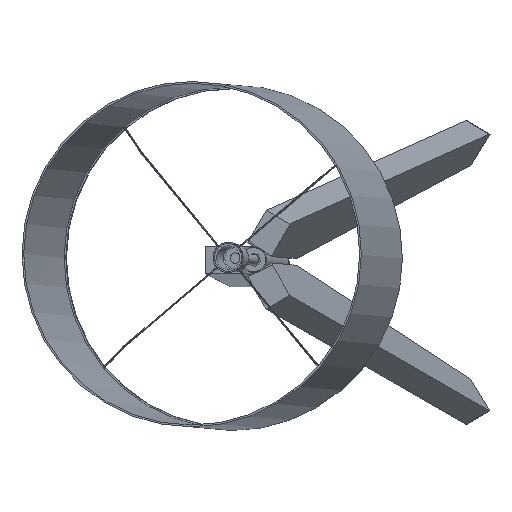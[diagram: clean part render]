
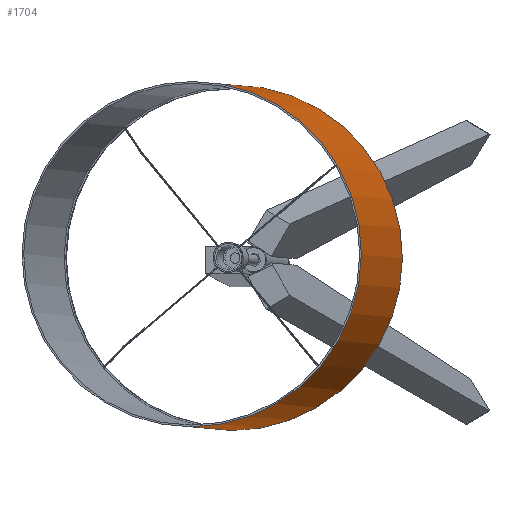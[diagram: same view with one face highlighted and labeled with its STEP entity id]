
A CAD part, top view. The second image highlights one B-rep face of the part: STEP entity #1704.
In plain terms, the highlighted cylindrical face has radius 250 mm (diameter 500 mm), a full revolution.
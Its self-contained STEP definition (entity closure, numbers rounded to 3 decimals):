
#163=CYLINDRICAL_SURFACE('',#1962,250.);
#428=FACE_BOUND('',#653,.T.);
#526=FACE_OUTER_BOUND('',#652,.T.);
#652=EDGE_LOOP('',(#1537,#1538,#1539,#1540));
#653=EDGE_LOOP('',(#1541,#1542,#1543,#1544));
#705=CIRCLE('',#1963,250.);
#706=CIRCLE('',#1964,250.);
#707=CIRCLE('',#1965,250.);
#708=CIRCLE('',#1966,250.);
#709=CIRCLE('',#1967,250.);
#710=CIRCLE('',#1968,250.);
#711=CIRCLE('',#1969,250.);
#712=CIRCLE('',#1970,250.);
#863=VERTEX_POINT('',#3115);
#864=VERTEX_POINT('',#3116);
#865=VERTEX_POINT('',#3118);
#866=VERTEX_POINT('',#3120);
#867=VERTEX_POINT('',#3123);
#868=VERTEX_POINT('',#3124);
#869=VERTEX_POINT('',#3126);
#870=VERTEX_POINT('',#3128);
#1092=EDGE_CURVE('',#863,#864,#705,.T.);
#1093=EDGE_CURVE('',#865,#863,#706,.T.);
#1094=EDGE_CURVE('',#866,#865,#707,.T.);
#1095=EDGE_CURVE('',#864,#866,#708,.T.);
#1096=EDGE_CURVE('',#867,#868,#709,.T.);
#1097=EDGE_CURVE('',#869,#867,#710,.T.);
#1098=EDGE_CURVE('',#870,#869,#711,.T.);
#1099=EDGE_CURVE('',#868,#870,#712,.T.);
#1537=ORIENTED_EDGE('',*,*,#1092,.F.);
#1538=ORIENTED_EDGE('',*,*,#1093,.F.);
#1539=ORIENTED_EDGE('',*,*,#1094,.F.);
#1540=ORIENTED_EDGE('',*,*,#1095,.F.);
#1541=ORIENTED_EDGE('',*,*,#1096,.F.);
#1542=ORIENTED_EDGE('',*,*,#1097,.F.);
#1543=ORIENTED_EDGE('',*,*,#1098,.F.);
#1544=ORIENTED_EDGE('',*,*,#1099,.F.);
#1704=ADVANCED_FACE('',(#526,#428),#163,.T.);
#1962=AXIS2_PLACEMENT_3D('',#3114,#2468,#2469);
#1963=AXIS2_PLACEMENT_3D('',#3117,#2470,#2471);
#1964=AXIS2_PLACEMENT_3D('',#3119,#2472,#2473);
#1965=AXIS2_PLACEMENT_3D('',#3121,#2474,#2475);
#1966=AXIS2_PLACEMENT_3D('',#3122,#2476,#2477);
#1967=AXIS2_PLACEMENT_3D('',#3125,#2478,#2479);
#1968=AXIS2_PLACEMENT_3D('',#3127,#2480,#2481);
#1969=AXIS2_PLACEMENT_3D('',#3129,#2482,#2483);
#1970=AXIS2_PLACEMENT_3D('',#3130,#2484,#2485);
#2468=DIRECTION('center_axis',(0.,0.,1.));
#2469=DIRECTION('ref_axis',(-1.,0.,0.));
#2470=DIRECTION('center_axis',(0.,0.,1.));
#2471=DIRECTION('ref_axis',(-1.,0.,0.));
#2472=DIRECTION('center_axis',(0.,0.,1.));
#2473=DIRECTION('ref_axis',(-1.,0.,0.));
#2474=DIRECTION('center_axis',(0.,0.,1.));
#2475=DIRECTION('ref_axis',(-1.,0.,0.));
#2476=DIRECTION('center_axis',(0.,0.,1.));
#2477=DIRECTION('ref_axis',(-1.,0.,0.));
#2478=DIRECTION('center_axis',(0.,0.,-1.));
#2479=DIRECTION('ref_axis',(-1.,0.,0.));
#2480=DIRECTION('center_axis',(0.,0.,-1.));
#2481=DIRECTION('ref_axis',(-1.,0.,0.));
#2482=DIRECTION('center_axis',(0.,0.,-1.));
#2483=DIRECTION('ref_axis',(-1.,0.,0.));
#2484=DIRECTION('center_axis',(0.,0.,-1.));
#2485=DIRECTION('ref_axis',(-1.,0.,0.));
#3114=CARTESIAN_POINT('Origin',(0.,0.,0.));
#3115=CARTESIAN_POINT('',(250.,0.,320.));
#3116=CARTESIAN_POINT('',(0.,250.,320.));
#3117=CARTESIAN_POINT('Origin',(0.,0.,320.));
#3118=CARTESIAN_POINT('',(0.,-250.,320.));
#3119=CARTESIAN_POINT('Origin',(0.,0.,320.));
#3120=CARTESIAN_POINT('',(-250.,0.,320.));
#3121=CARTESIAN_POINT('Origin',(0.,0.,320.));
#3122=CARTESIAN_POINT('Origin',(0.,0.,320.));
#3123=CARTESIAN_POINT('',(250.,0.,0.));
#3124=CARTESIAN_POINT('',(0.,-250.,0.));
#3125=CARTESIAN_POINT('Origin',(0.,0.,0.));
#3126=CARTESIAN_POINT('',(0.,250.,0.));
#3127=CARTESIAN_POINT('Origin',(0.,0.,0.));
#3128=CARTESIAN_POINT('',(-250.,0.,0.));
#3129=CARTESIAN_POINT('Origin',(0.,0.,0.));
#3130=CARTESIAN_POINT('Origin',(0.,0.,0.));
